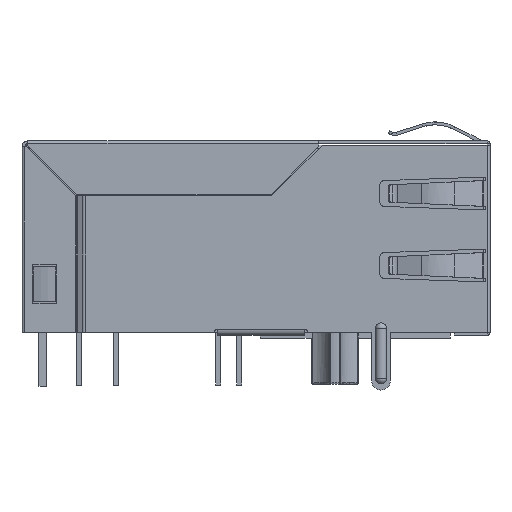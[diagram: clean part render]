
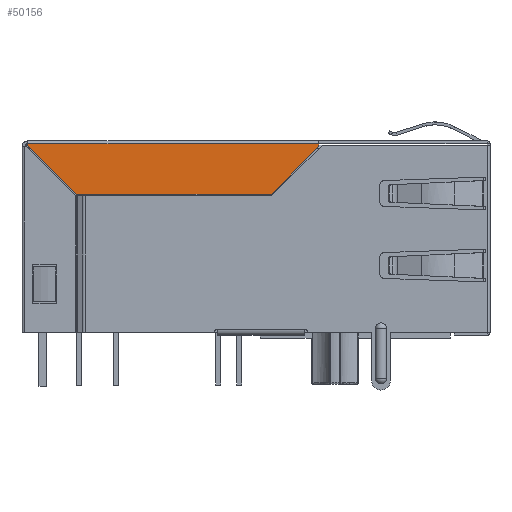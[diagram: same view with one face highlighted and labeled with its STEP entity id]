
A CAD part, left-side view. The second image highlights one B-rep face of the part: STEP entity #50156.
In plain terms, the highlighted planar face has unit normal (-1, 0, 0).
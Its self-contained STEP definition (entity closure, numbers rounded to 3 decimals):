
#40721=DIRECTION('',(0.,1.,0.));
#40722=VECTOR('',#40721,20.2);
#40723=CARTESIAN_POINT('',(-8.25,-4.35,6.6));
#40724=LINE('',#40723,#40722);
#40742=DIRECTION('',(0.,0.,-1.));
#40743=VECTOR('',#40742,0.2);
#40744=CARTESIAN_POINT('',(-8.25,-4.35,6.6));
#40745=LINE('',#40744,#40743);
#40746=DIRECTION('',(0.,0.707,-0.707));
#40747=VECTOR('',#40746,4.667);
#40748=CARTESIAN_POINT('',(-8.25,-4.35,6.4));
#40749=LINE('',#40748,#40747);
#40750=DIRECTION('',(0.,0.707,0.707));
#40751=VECTOR('',#40750,4.817);
#40752=CARTESIAN_POINT('',(-8.25,12.444,3.1));
#40753=LINE('',#40752,#40751);
#40774=DIRECTION('',(0.,0.,1.));
#40775=VECTOR('',#40774,0.05);
#40776=CARTESIAN_POINT('',(-8.25,15.85,6.55));
#40777=LINE('',#40776,#40775);
#40797=DIRECTION('',(0.,0.,-1.));
#40798=VECTOR('',#40797,0.044);
#40799=CARTESIAN_POINT('',(-8.25,15.85,6.55));
#40800=LINE('',#40799,#40798);
#40820=DIRECTION('',(0.,-1.,0.));
#40821=VECTOR('',#40820,13.494);
#40822=CARTESIAN_POINT('',(-8.25,12.444,3.1));
#40823=LINE('',#40822,#40821);
#43065=CARTESIAN_POINT('',(-8.25,15.85,6.6));
#43066=VERTEX_POINT('',#43065);
#43067=CARTESIAN_POINT('',(-8.25,-4.35,6.6));
#43068=VERTEX_POINT('',#43067);
#43069=CARTESIAN_POINT('',(-8.25,-4.35,6.4));
#43070=VERTEX_POINT('',#43069);
#43073=CARTESIAN_POINT('',(-8.25,15.85,6.55));
#43074=VERTEX_POINT('',#43073);
#43075=CARTESIAN_POINT('',(-8.25,15.85,6.506));
#43076=VERTEX_POINT('',#43075);
#43077=CARTESIAN_POINT('',(-8.25,12.444,3.1));
#43078=VERTEX_POINT('',#43077);
#43079=CARTESIAN_POINT('',(-8.25,-1.05,3.1));
#43080=VERTEX_POINT('',#43079);
#50137=CARTESIAN_POINT('',(-8.25,5.75,4.85));
#50138=DIRECTION('',(1.,0.,0.));
#50139=DIRECTION('',(0.,0.,-1.));
#50140=AXIS2_PLACEMENT_3D('',#50137,#50138,#50139);
#50141=PLANE('',#50140);
#50142=ORIENTED_EDGE('',*,*,#50127,.T.);
#50144=ORIENTED_EDGE('',*,*,#50143,.T.);
#50146=ORIENTED_EDGE('',*,*,#50145,.F.);
#50148=ORIENTED_EDGE('',*,*,#50147,.T.);
#50150=ORIENTED_EDGE('',*,*,#50149,.F.);
#50152=ORIENTED_EDGE('',*,*,#50151,.T.);
#50153=ORIENTED_EDGE('',*,*,#50103,.F.);
#50154=EDGE_LOOP('',(#50142,#50144,#50146,#50148,#50150,#50152,#50153));
#50155=FACE_OUTER_BOUND('',#50154,.F.);
#50156=ADVANCED_FACE('',(#50155),#50141,.F.);
#50103=EDGE_CURVE('',#43068,#43066,#40724,.T.);
#50127=EDGE_CURVE('',#43068,#43070,#40745,.T.);
#50143=EDGE_CURVE('',#43070,#43080,#40749,.T.);
#50145=EDGE_CURVE('',#43078,#43080,#40823,.T.);
#50147=EDGE_CURVE('',#43078,#43076,#40753,.T.);
#50149=EDGE_CURVE('',#43074,#43076,#40800,.T.);
#50151=EDGE_CURVE('',#43074,#43066,#40777,.T.);
